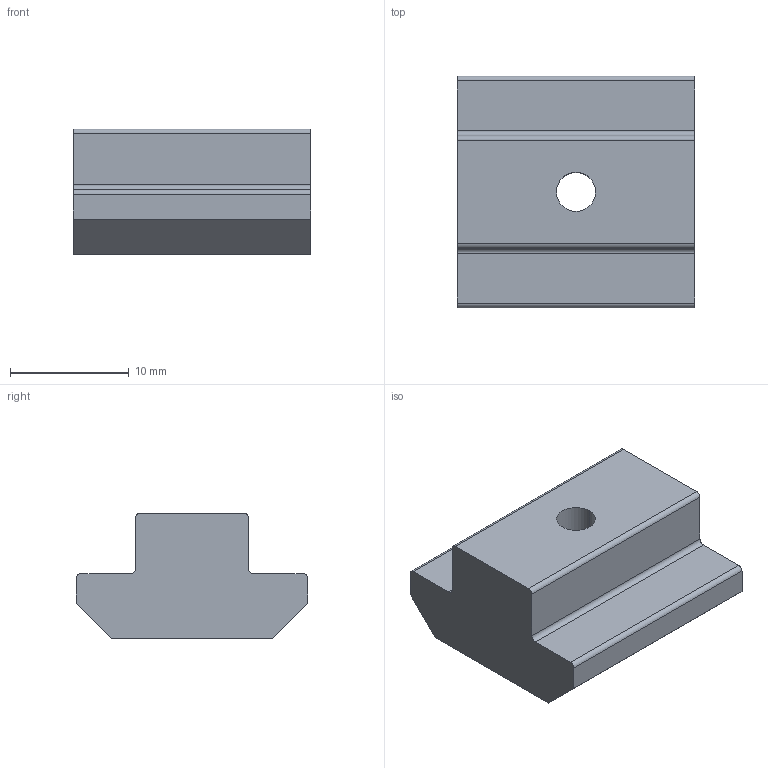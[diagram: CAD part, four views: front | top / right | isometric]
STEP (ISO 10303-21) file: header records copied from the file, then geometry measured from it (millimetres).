
FILE_DESCRIPTION (( 'STEP AP203' ), '1' );
FILE_NAME ('0110NSSM4.STEP', '2024-03-05T13:48:33', ( 'Windows-Benutzer' ), ( '' ), 'SwSTEP 2.0', 'SolidWorks 2023', '' );
FILE_SCHEMA (( 'CONFIG_CONTROL_DESIGN' ));
Length unit declared in the file: millimetre
Products named in the file (1): 0110NSSM4
Bounding box: 20 x 19.5 x 10.6 mm (x, y, z)
Volume: 2842 mm3; surface area: 1499.2 mm2
Topology: 1 solids, 1 shells, 20 faces, 54 edges, 36 vertices
Faces by surface type: plane 12, cylinder 8
Entity records: 715 total; most frequent: DIRECTION 112, CARTESIAN_POINT 111, ORIENTED_EDGE 108, EDGE_CURVE 54, VECTOR 38, LINE 38, AXIS2_PLACEMENT_3D 37, VERTEX_POINT 36
